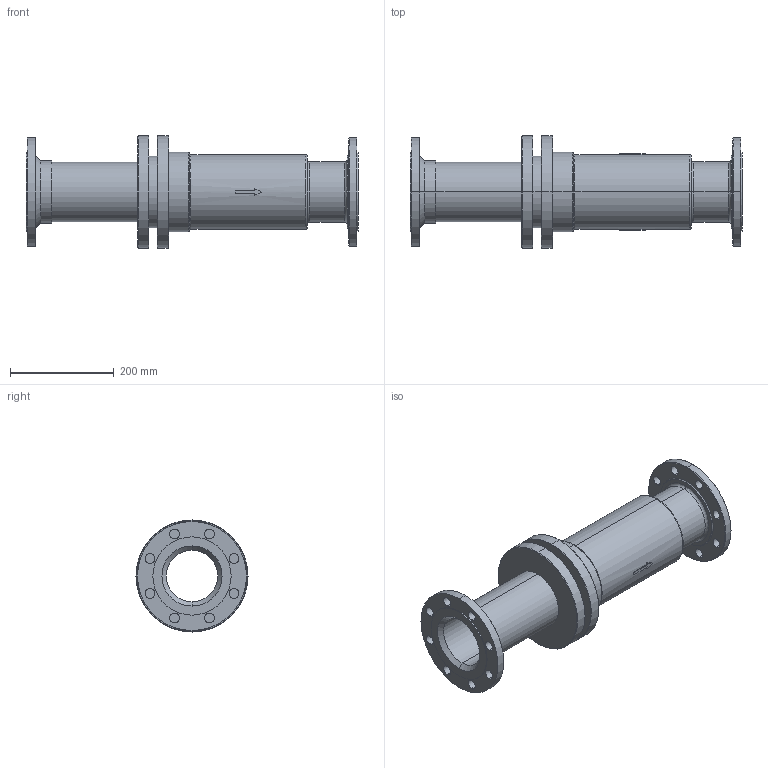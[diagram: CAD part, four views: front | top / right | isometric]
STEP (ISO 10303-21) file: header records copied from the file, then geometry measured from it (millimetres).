
FILE_DESCRIPTION( (''), '2;1');
FILE_NAME ('PC1027.9516.ES-10-200 100A_29148.stp','2025-07-30T14:50:31',(''),(''),'spGate 20.6.3 (****-****-****-****)','','');
FILE_SCHEMA (('AUTOMOTIVE_DESIGN'));
Length unit declared in the file: millimetre
Bounding box: 640 x 216 x 216 mm (x, y, z)
Volume: 5292340.7 mm3; surface area: 678788.5 mm2
Topology: 1 solids, 1 shells, 119 faces, 284 edges, 180 vertices
Faces by surface type: cylinder 58, bspline 32, plane 29
Entity records: 6121 total; most frequent: CARTESIAN_POINT 1165, ORIENTED_EDGE 568, DIRECTION 522, COLOUR_RGB 404, PRESENTATION_STYLE_ASSIGNMENT 404, STYLED_ITEM 404, EDGE_CURVE 284, DRAUGHTING_PRE_DEFINED_CURVE_FONT 284
